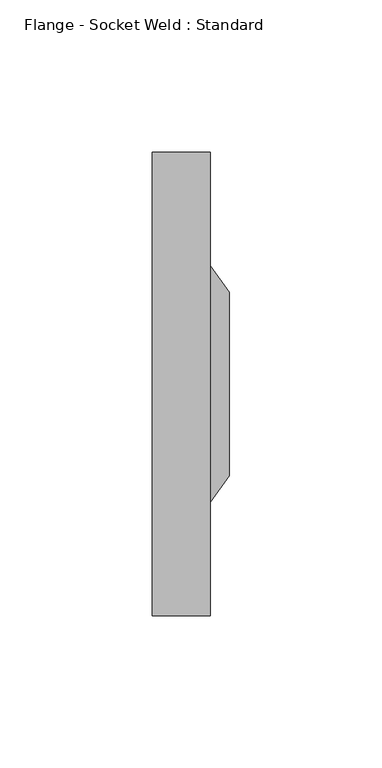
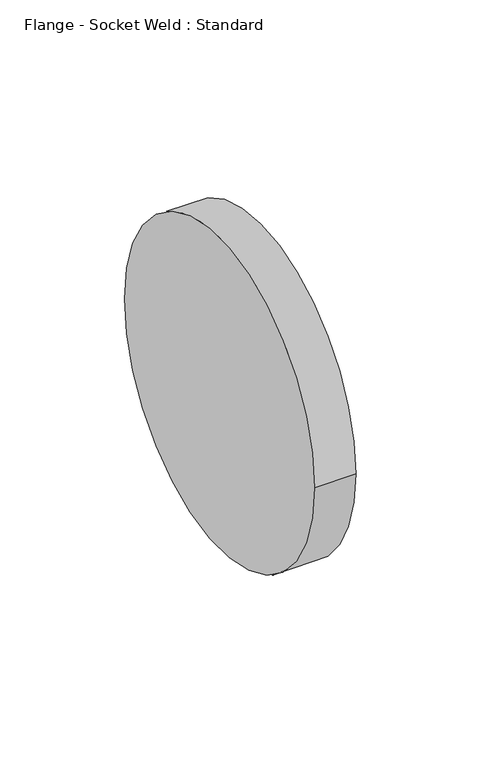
"""IFC4 building model written with IfcOpenShell, lengths in millimetres: valve geometry, Flange - Socket Weld : Standard."""

from ifc_helpers import new_model, si_unit, frame, origin, place, context, project, spatial, polyline, circle_curve, source, transform, mapped, element, save
from ifc_brep_helpers import plane_surface, cylinder_surface, revolved_surface, advanced_brep


def flange_socket_weld_standard_a1c96169(model_context):
    return source(origin(), model_context, "Body", "AdvancedBrep", [
        advanced_brep(
        [(1.5875, -76.2, 0.0), (1.5875, 76.2, 0.0), (20.6375, -76.2, 0.0), (20.6375, 76.2, 0.0), (20.6375, 38.89375, 0.0), (20.6375, -38.89375, 0.0), (26.9875, -30.226, 0.0), (26.9875, 30.226, 0.0)],
        [
            (0, 1, circle_curve(frame((1.5875, 0.0, 0.0), z_axis=(-1.0, 0.0, 0.0), x_axis=(0.0, 1.0, 0.0)), 76.2)),
            (1, 0, circle_curve(frame((1.5875, 0.0, 0.0), z_axis=(-1.0, 0.0, 0.0), x_axis=(0.0, 1.0, 0.0)), 76.2)),
            (2, 3, circle_curve(frame((20.6375, 0.0, 0.0), z_axis=(1.0, 0.0, 0.0), x_axis=(0.0, 1.0, 0.0)), 76.2)),
            (3, 2, circle_curve(frame((20.6375, 0.0, 0.0), z_axis=(1.0, 0.0, 0.0), x_axis=(0.0, 1.0, 0.0)), 76.2)),
            (4, 5, circle_curve(frame((20.6375, 0.0, 0.0), z_axis=(-1.0, 0.0, 0.0), x_axis=(0.0, -1.0, 0.0)), 38.89375)),
            (5, 4, circle_curve(frame((20.6375, 0.0, 0.0), z_axis=(-1.0, 0.0, 0.0), x_axis=(0.0, 1.0, 0.0)), 38.89375)),
            (0, 2),
            (3, 1),
            (6, 7, circle_curve(frame((26.9875, 0.0, 0.0), z_axis=(1.0, 0.0, 0.0), x_axis=(0.0, -1.0, 0.0)), 30.226)),
            (7, 6, circle_curve(frame((26.9875, 0.0, 0.0), z_axis=(1.0, 0.0, 0.0), x_axis=(0.0, 1.0, 0.0)), 30.226)),
            (6, 5),
            (4, 7),
        ],
        [
            plane_surface(frame((1.5875, 0.0, 0.0), z_axis=(-1.0, 0.0, 0.0), x_axis=(0.0, 0.0, 1.0))),
            plane_surface(frame((20.6375, 0.0, 0.0), z_axis=(1.0, 0.0, 0.0), x_axis=(0.0, 0.0, 1.0))),
            cylinder_surface(frame((1.5875, 0.0, 0.0), z_axis=(-1.0, 0.0, 0.0), x_axis=(0.0, 1.0, 0.0)), 76.2),
            plane_surface(frame((26.9875, 0.0, 0.0), z_axis=(1.0, 0.0, 0.0), x_axis=(0.0, 0.0, -1.0))),
            revolved_surface(polyline([(26.9875, -30.225999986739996, 0.0), (20.6375, -38.89375, 0.0)]), (49.1310897, 0.0, 0.0), (-1.0, 0.0, 0.0)),
            revolved_surface(polyline([(26.9875, 30.225999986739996, 0.0), (20.6375, 38.89375, 0.0)]), (49.1310897, 0.0, 0.0), (-1.0, 0.0, 0.0)),
        ],
        [
            (0, [[1, 2]]),
            (1, [[3, 4], [5, 6]]),
            (2, [[-1, 7, -4, 8]]),
            (2, [[-2, -8, -3, -7]]),
            (3, [[9, 10]]),
            (4, [[-9, 11, -5, 12]]),
            (5, [[-10, -12, -6, -11]]),
        ],
    ),
    ])


if __name__ == "__main__":
    model = new_model("IFC4")
    model_context = context("Model", 3, world=origin())
    ifc_project = project(units=[si_unit("LENGTHUNIT", "METRE", prefix="MILLI")], contexts=[model_context])
    site = spatial("IfcSite", under=ifc_project)
    building = spatial("IfcBuilding", under=site)
    placement = place(None, origin())
    flange_socket_weld_standard_shape = flange_socket_weld_standard_a1c96169(model_context)
    element("IfcValve", 1, ObjectType="Flange - Socket Weld : Standard", at=placement, inside=building, context=model_context, shape_type="MappedRepresentation", body=[
        mapped(flange_socket_weld_standard_shape, transform((0.0, 0.0, 0.0), x_axis=(1.0, 0.0, 0.0), y_axis=(0.0, 1.0, 0.0), z_axis=(0.0, 0.0, 1.0))),
    ])
    save(model, "model.ifc")
